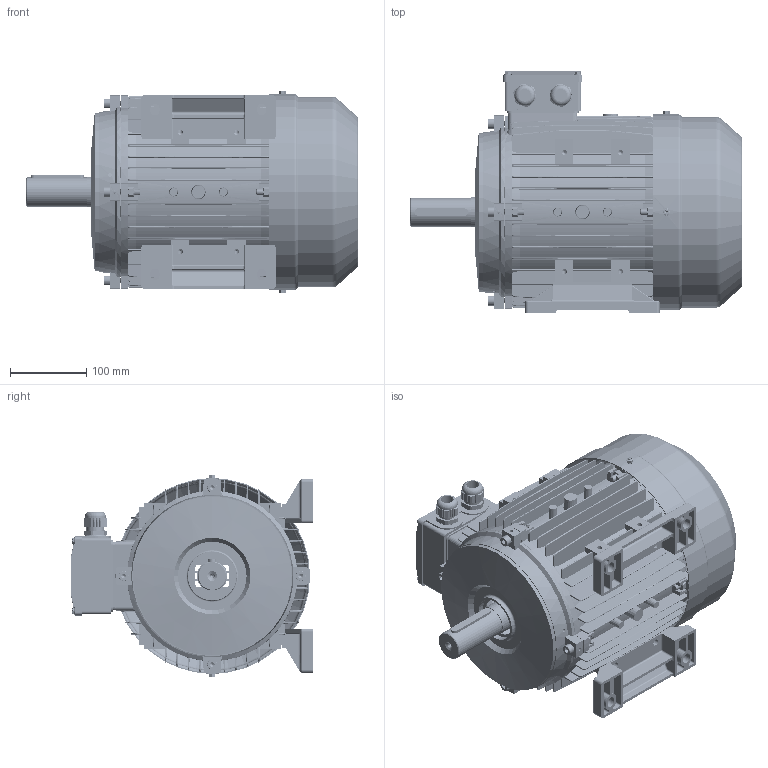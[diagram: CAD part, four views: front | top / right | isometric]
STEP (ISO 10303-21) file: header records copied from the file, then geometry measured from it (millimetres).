
FILE_DESCRIPTION (( 'STEP AP203' ), '1' );
FILE_NAME ('MSL132S assembly B3.STEP', '2017-11-26T10:18:17', ( 'user' ), ( 'china' ), 'SwSTEP 2.0', 'SolidWorks 2016', '' );
FILE_SCHEMA (( 'CONFIG_CONTROL_DESIGN' ));
Length unit declared in the file: millimetre
Products named in the file (16): M132瑞欶_117; M132菁褐(等謂)_S; GB-T 70.1-2000 M8_40; MS132 綴裔瑞欶郪磁; M132-Shaft drive end_DNF; GB-T 5780-2000 M8_040; MS132諉盄碟釱(苤)_2Holes; MS132諉盄碟裔(苤); GB-T 41-2000 M8; M25 cable gland; GB-T 29.2-1988 M4鞠褒坋趼湍菜_05; M132傷裔B3_NonDrive; M112-132諉盄碟(苤); MSL132S assembly B3; M132儂褲_S; GB-T 29.2-1988 M5鞠褒坋趼湍菜_10
Assembly tree (36 placements, depth 3):
  MSL132S assembly B3
    M132儂褲_S
    M132-Shaft drive end_DNF
    M132菁褐(等謂)_S  x2
    MS132 綴裔瑞欶郪磁
      M132傷裔B3_NonDrive
      M132瑞欶_117
      GB-T 29.2-1988 M5鞠褒坋趼湍菜_10  x3
    GB-T 41-2000 M8  x8
    GB-T 70.1-2000 M8_40  x4
    M112-132諉盄碟(苤)
      MS132諉盄碟釱(苤)_2Holes
      MS132諉盄碟裔(苤)
      GB-T 29.2-1988 M4鞠褒坋趼湍菜_05  x4
      M25 cable gland  x2
    GB-T 5780-2000 M8_040  x4
    M132傷裔B3_NonDrive
Bounding box: 435 x 317 x 264.6 mm (x, y, z)
Volume: 2537734.9 mm3; surface area: 1336183.7 mm2
Topology: 36 solids, 36 shells, 5592 faces, 14656 edges, 9171 vertices
Faces by surface type: plane 2360, cylinder 1420, cone 1092, bspline 588, torus 120, sphere 12
Entity records: 152958 total; most frequent: CARTESIAN_POINT 61404, ORIENTED_EDGE 19910, DIRECTION 16636, EDGE_CURVE 9955, VERTEX_POINT 6353, VECTOR 5864, LINE 5864, AXIS2_PLACEMENT_3D 5386
